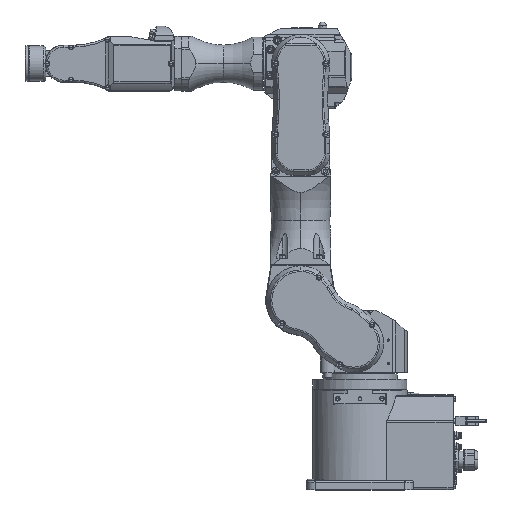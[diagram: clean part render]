
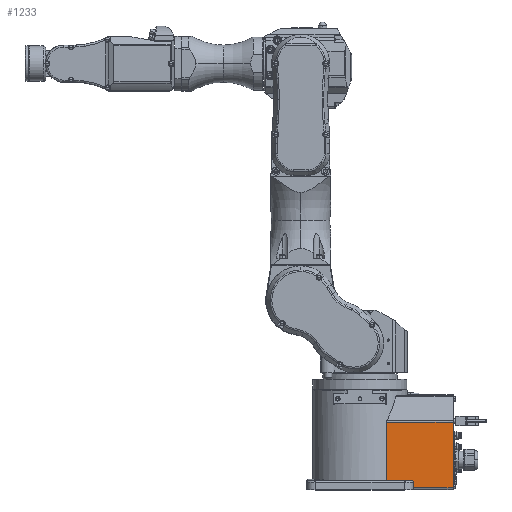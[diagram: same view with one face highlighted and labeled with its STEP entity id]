
A CAD part, top view. The second image highlights one B-rep face of the part: STEP entity #1233.
In plain terms, the highlighted planar face has unit normal (0, 0, 1).
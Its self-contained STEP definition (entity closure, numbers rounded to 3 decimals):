
#1233 = ADVANCED_FACE( '', ( #4848 ), #4849, .T. );
#4848 = FACE_OUTER_BOUND( '', #10364, .T. );
#4849 = PLANE( '', #10365 );
#10364 = EDGE_LOOP( '', ( #20772, #20773, #20774, #20775, #20776, #20777, #20778, #20779, #20780 ) );
#10365 = AXIS2_PLACEMENT_3D( '', #20781, #20782, #20783 );
#20772 = ORIENTED_EDGE( '', *, *, #36866, .F. );
#20773 = ORIENTED_EDGE( '', *, *, #36956, .F. );
#20774 = ORIENTED_EDGE( '', *, *, #36957, .F. );
#20775 = ORIENTED_EDGE( '', *, *, #36958, .F. );
#20776 = ORIENTED_EDGE( '', *, *, #36959, .F. );
#20777 = ORIENTED_EDGE( '', *, *, #36960, .F. );
#20778 = ORIENTED_EDGE( '', *, *, #36961, .T. );
#20779 = ORIENTED_EDGE( '', *, *, #36177, .T. );
#20780 = ORIENTED_EDGE( '', *, *, #36955, .F. );
#20781 = CARTESIAN_POINT( '', ( 0., 3.5, 66. ) );
#20782 = DIRECTION( '', ( 0., 0., 1. ) );
#20783 = DIRECTION( '', ( 0., -1., 0. ) );
#36177 = EDGE_CURVE( '', #43790, #43787, #43791, .T. );
#36866 = EDGE_CURVE( '', #44808, #44810, #44811, .T. );
#36955 = EDGE_CURVE( '', #44810, #43787, #44944, .T. );
#36956 = EDGE_CURVE( '', #44945, #44808, #44946, .T. );
#36957 = EDGE_CURVE( '', #44947, #44945, #44948, .T. );
#36958 = EDGE_CURVE( '', #44949, #44947, #44950, .T. );
#36959 = EDGE_CURVE( '', #44951, #44949, #44952, .T. );
#36960 = EDGE_CURVE( '', #44953, #44951, #44954, .T. );
#36961 = EDGE_CURVE( '', #44953, #43790, #44955, .T. );
#43787 = VERTEX_POINT( '', #55307 );
#43790 = VERTEX_POINT( '', #55310 );
#43791 = LINE( '', #55311, #55312 );
#44808 = VERTEX_POINT( '', #56825 );
#44810 = VERTEX_POINT( '', #56827 );
#44811 = LINE( '', #56828, #56829 );
#44944 = LINE( '', #57040, #57041 );
#44945 = VERTEX_POINT( '', #57042 );
#44946 = LINE( '', #57043, #57044 );
#44947 = VERTEX_POINT( '', #57045 );
#44948 = LINE( '', #57046, #57047 );
#44949 = VERTEX_POINT( '', #57048 );
#44950 = LINE( '', #57049, #57050 );
#44951 = VERTEX_POINT( '', #57051 );
#44952 = ELLIPSE( '', #57052, 3.501, 3.5 );
#44953 = VERTEX_POINT( '', #57053 );
#44954 = LINE( '', #57054, #57055 );
#44955 = LINE( '', #57056, #57057 );
#55307 = CARTESIAN_POINT( '', ( 157.5, 114.378, 66. ) );
#55310 = CARTESIAN_POINT( '', ( 157.5, 3.5, 66. ) );
#55311 = CARTESIAN_POINT( '', ( 157.5, 114.378, 66. ) );
#55312 = VECTOR( '', #75056, 1. );
#56825 = CARTESIAN_POINT( '', ( 45.211, 16.272, 66. ) );
#56827 = CARTESIAN_POINT( '', ( 45.211, 114.378, 66. ) );
#56828 = CARTESIAN_POINT( '', ( 45.211, 65.141, 66. ) );
#56829 = VECTOR( '', #76166, 1. );
#57040 = CARTESIAN_POINT( '', ( 0., 114.378, 66. ) );
#57041 = VECTOR( '', #76324, 1. );
#57042 = CARTESIAN_POINT( '', ( 68.675, 16.272, 66. ) );
#57043 = CARTESIAN_POINT( '', ( 45., 16.272, 66. ) );
#57044 = VECTOR( '', #76325, 1. );
#57045 = CARTESIAN_POINT( '', ( 68.675, 15., 66. ) );
#57046 = CARTESIAN_POINT( '', ( 68.675, 15.662, 66. ) );
#57047 = VECTOR( '', #76326, 1. );
#57048 = CARTESIAN_POINT( '', ( 89.199, 15., 66. ) );
#57049 = CARTESIAN_POINT( '', ( 0., 15., 66. ) );
#57050 = VECTOR( '', #76327, 1. );
#57051 = CARTESIAN_POINT( '', ( 90., 12.771, 66. ) );
#57052 = AXIS2_PLACEMENT_3D( '', #76328, #76329, #76330 );
#57053 = CARTESIAN_POINT( '', ( 90., 3.5, 66. ) );
#57054 = CARTESIAN_POINT( '', ( 90., 1.75, 66. ) );
#57055 = VECTOR( '', #76331, 1. );
#57056 = CARTESIAN_POINT( '', ( 0., 3.5, 66. ) );
#57057 = VECTOR( '', #76332, 1. );
#75056 = DIRECTION( '', ( 0., 1., 0. ) );
#76166 = DIRECTION( '', ( 0., 1., 0. ) );
#76324 = DIRECTION( '', ( 1., 0., 0. ) );
#76325 = DIRECTION( '', ( -1., 0., 0. ) );
#76326 = DIRECTION( '', ( 0., 1., 0. ) );
#76327 = DIRECTION( '', ( -1., 0., 0. ) );
#76328 = CARTESIAN_POINT( '', ( 86.5, 12.771, 66. ) );
#76329 = DIRECTION( '', ( 0., 0., 1. ) );
#76330 = DIRECTION( '', ( 0., 1., 0. ) );
#76331 = DIRECTION( '', ( 0., 1., 0. ) );
#76332 = DIRECTION( '', ( 1., 0., 0. ) );
